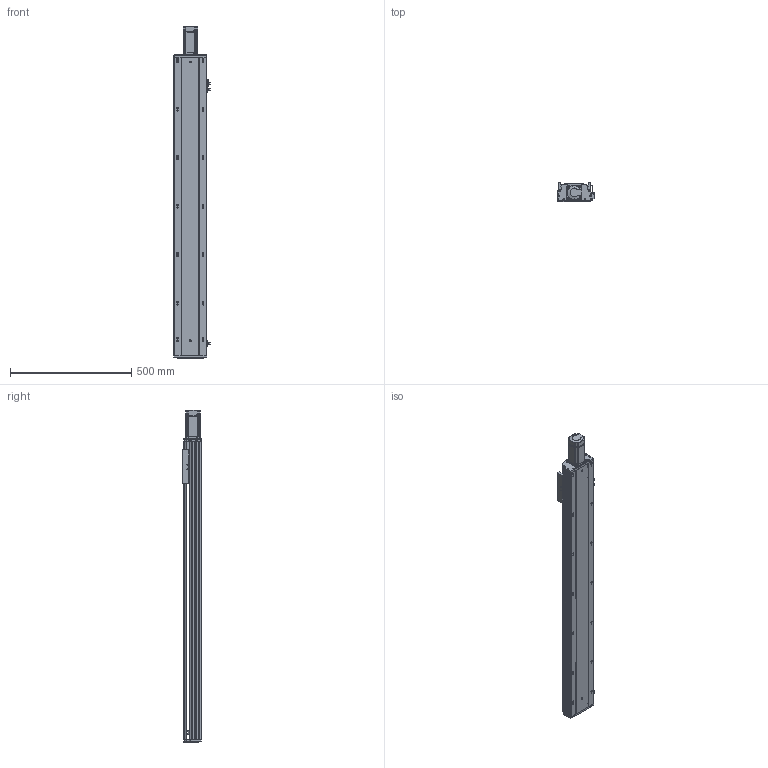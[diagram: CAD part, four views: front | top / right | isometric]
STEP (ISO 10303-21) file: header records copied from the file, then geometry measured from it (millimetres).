
FILE_DESCRIPTION (( 'STEP AP203' ), '1' );
FILE_NAME ('RY140Q-L2010-700-MK.SLDASM_1000.step', '2021-05-27T03:22:47', ( '盈信电脑' ), ( '东莞市道滘镇水果街19号' ), 'SwSTEP 2.0', 'SolidWorks 2016', '' );
FILE_SCHEMA (( 'CONFIG_CONTROL_DESIGN' ));
Length unit declared in the file: millimetre
Products named in the file (14): RY140綴裔啣; 滅袉蝶18-10; RY140Q臏賑輸(20佪裝-J); 滅袉蝶18-15; 鞠褒坶踡蹟譫BK12 ; RY140Q萇儂傷盓傅釱FK12(80.5酗M5); RY140ヶ裔啣; RY140Q-700-MK倰第奻裔啣_1000; RY140Q-L2010-700-MK.SLDASM_1000; RY120外置感应片(140共用）; 15; RY140Q-700-MK倰第菁釱_1000; 侂狟400W侜督萇儂; 覜茼ん672
Assembly tree (16 placements, depth 3):
  RY140Q-L2010-700-MK.SLDASM_1000
    RY140Q-700-MK倰第菁釱_1000
    RY140Q臏賑輸(20佪裝-J)
    RY140Q-700-MK倰第奻裔啣_1000
    RY140ヶ裔啣
    侂狟400W侜督萇儂
      15
    鞠褒坶踡蹟譫BK12 
    RY140綴裔啣
    覜茼ん672  x3
    RY120外置感应片(140共用）
    RY140Q萇儂傷盓傅釱FK12(80.5酗M5)
    滅袉蝶18-10
    滅袉蝶18-15  x2
Bounding box: 148.7 x 78 x 1369.5 mm (x, y, z)
Volume: 3842899.3 mm3; surface area: 1405935.9 mm2
Topology: 15 solids, 15 shells, 2141 faces, 5916 edges, 3779 vertices
Faces by surface type: plane 1090, cylinder 754, cone 212, bspline 85
Entity records: 70735 total; most frequent: CARTESIAN_POINT 16956, ORIENTED_EDGE 11100, DIRECTION 10568, EDGE_CURVE 5550, VERTEX_POINT 3639, VECTOR 3544, LINE 3544, AXIS2_PLACEMENT_3D 3512
